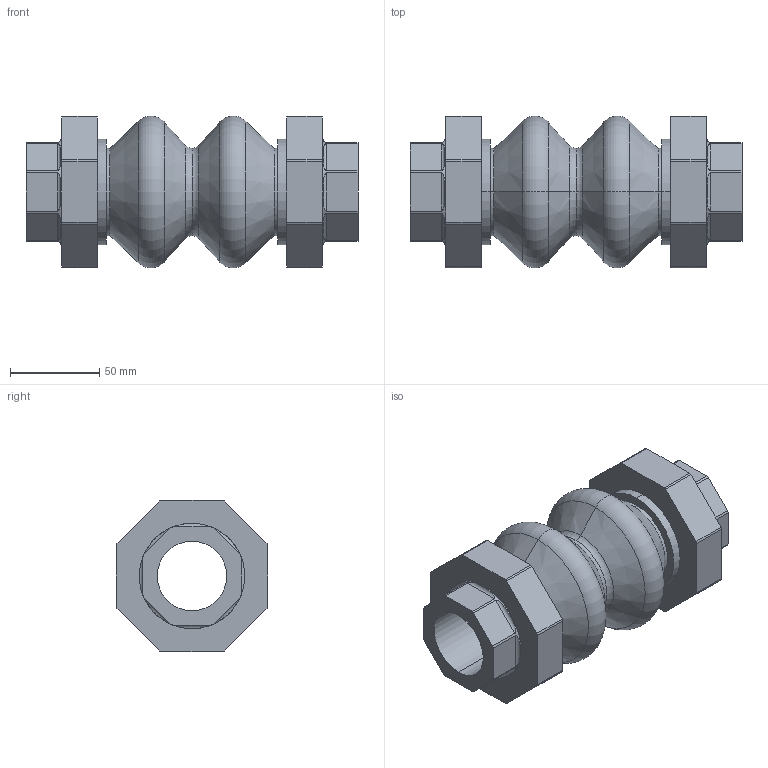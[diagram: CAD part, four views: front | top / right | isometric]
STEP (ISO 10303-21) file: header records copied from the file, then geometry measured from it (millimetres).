
FILE_DESCRIPTION (( 'STEP AP203' ), '1' );
FILE_NAME ('T8_DN032.STEP', '2012-10-31T13:29:25', ( 'luca.saino' ), ( 'Hewlett-Packard Company' ), 'SwSTEP 2.0', 'SolidWorks 2012', '' );
FILE_SCHEMA (( 'CONFIG_CONTROL_DESIGN' ));
Length unit declared in the file: millimetre
Products named in the file (1): T8_DN032
Bounding box: 186 x 85 x 85 mm (x, y, z)
Volume: 380734.5 mm3; surface area: 97156.2 mm2
Topology: 1 solids, 1 shells, 140 faces, 356 edges, 224 vertices
Faces by surface type: plane 56, cylinder 48, torus 20, cone 16
Entity records: 4901 total; most frequent: CARTESIAN_POINT 1377, DIRECTION 754, ORIENTED_EDGE 712, EDGE_CURVE 356, AXIS2_PLACEMENT_3D 289, VERTEX_POINT 224, LINE 176, VECTOR 176
